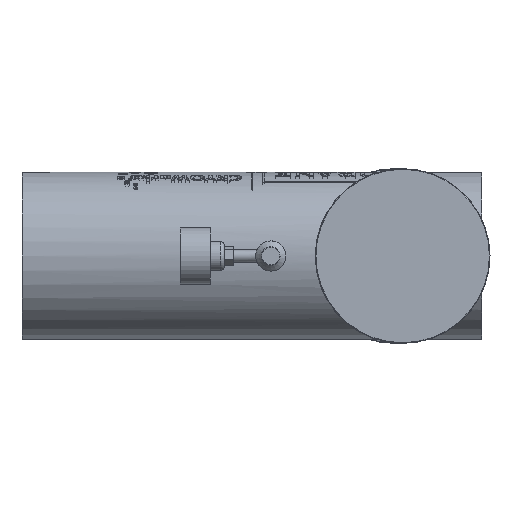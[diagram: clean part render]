
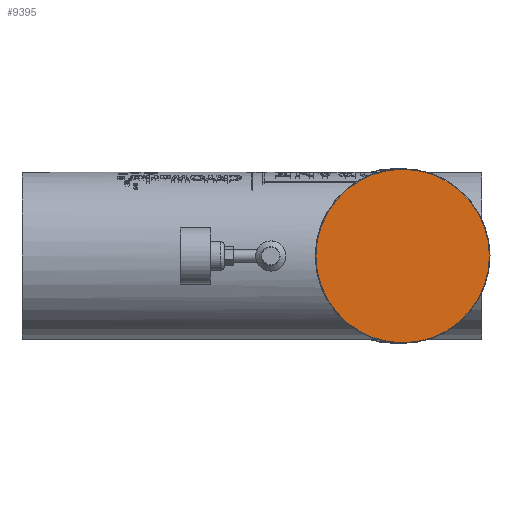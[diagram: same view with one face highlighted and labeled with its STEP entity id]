
A CAD part, left-side view. The second image highlights one B-rep face of the part: STEP entity #9395.
In plain terms, the highlighted planar face has unit normal (-1, -0.018, 0).
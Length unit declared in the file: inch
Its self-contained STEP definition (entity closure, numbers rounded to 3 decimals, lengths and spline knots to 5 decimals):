
#2025 = CARTESIAN_POINT ( 'NONE',  ( 0.05057, -2.89706, 0. ) ) ;
#2755 = EDGE_CURVE ( 'NONE', #17813, #17813, #19481, .T. ) ;
#3294 = DIRECTION ( 'NONE',  ( -1., -0.017, 0. ) ) ;
#6285 = DIRECTION ( 'NONE',  ( 0., 0., -1. ) ) ;
#9395 = ADVANCED_FACE ( 'NONE', ( #17277 ), #28693, .T. ) ;
#13051 = EDGE_LOOP ( 'NONE', ( #16990 ) ) ;
#16990 = ORIENTED_EDGE ( 'NONE', *, *, #2755, .T. ) ;
#17277 = FACE_OUTER_BOUND ( 'NONE', #13051, .T. ) ;
#17813 = VERTEX_POINT ( 'NONE', #22641 ) ;
#19481 = CIRCLE ( 'NONE', #27409, 2.8775 ) ;
#19764 = DIRECTION ( 'NONE',  ( -1., -0.017, 0. ) ) ;
#21858 = CARTESIAN_POINT ( 'NONE',  ( 0., 0., 0. ) ) ;
#22641 = CARTESIAN_POINT ( 'NONE',  ( 0., 0., -2.8775 ) ) ;
#27409 = AXIS2_PLACEMENT_3D ( 'NONE', #21858, #3294, #27600 ) ;
#27600 = DIRECTION ( 'NONE',  ( 0., 0., -1. ) ) ;
#27725 = AXIS2_PLACEMENT_3D ( 'NONE', #2025, #19764, #6285 ) ;
#28693 = PLANE ( 'NONE',  #27725 ) ;
